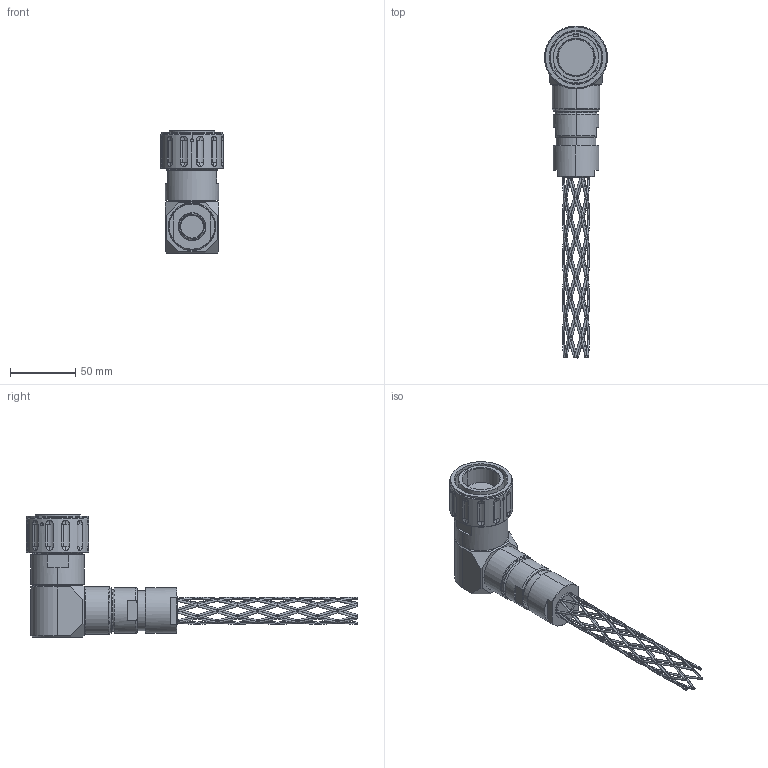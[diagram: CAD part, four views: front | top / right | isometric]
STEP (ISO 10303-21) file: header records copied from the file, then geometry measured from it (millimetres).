
FILE_DESCRIPTION (( 'STEP AP214' ), '1' );
FILE_NAME ('QLINK90-PGBX-23XX-GXXX-RA.STEP', '2025-12-09T16:31:02', ( '' ), ( '' ), 'SwSTEP 2.0', 'SolidWorks 2024', '' );
FILE_SCHEMA (( 'AUTOMOTIVE_DESIGN' ));
Length unit declared in the file: millimetre
Products named in the file (1): QLINK90-PGBX-23XX-GXXX-RA
Bounding box: 48.06 x 253.51 x 93.22 mm (x, y, z)
Volume: 194790 mm3; surface area: 42141.9 mm2
Topology: 5 solids, 7 shells, 558 faces, 1475 edges, 859 vertices
Faces by surface type: bspline 228, cylinder 110, plane 106, cone 53, sphere 48, torus 13
Entity records: 122083 total; most frequent: CARTESIAN_POINT 110739, ORIENTED_EDGE 2950, DIRECTION 1798, EDGE_CURVE 1475, VERTEX_POINT 859, AXIS2_PLACEMENT_3D 748, EDGE_LOOP 602, FACE_OUTER_BOUND 558
